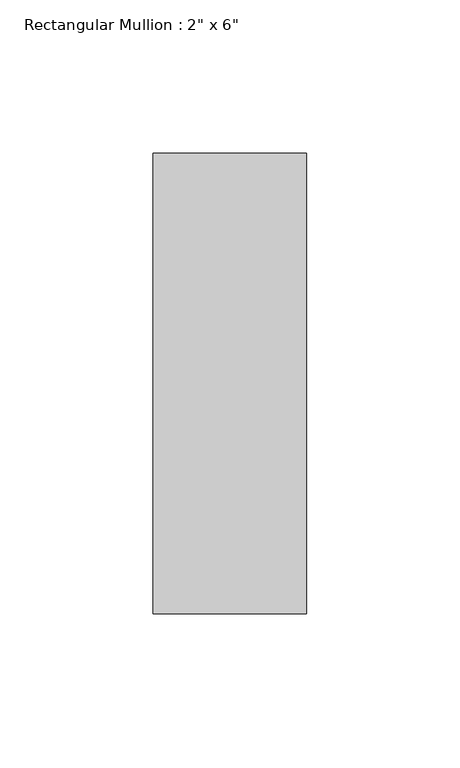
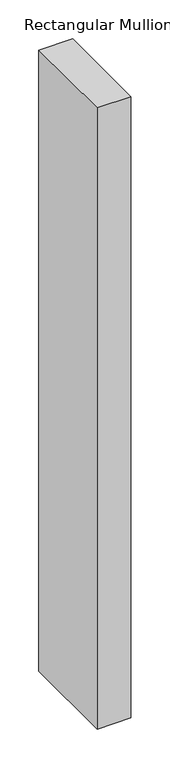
"""IFC4 building model written with IfcOpenShell, lengths in millimetres: member geometry."""

from ifc_helpers import new_model, si_unit, frame, origin, place, context, project, spatial, polyline, outline, extrude, source, transform, mapped, element, save


def member_ff7a03e8(model_context):
    return source(origin(), model_context, "Body", "SweptSolid", [
        extrude(outline(polyline([(0.0, 150.0), (0.0, 0.0), (-50.0, 0.0), (-50.0, 150.0), (0.0, 150.0)])), frame((0.0, 0.0, -974.9999998), z_axis=(0.0, 0.0, 1.0), x_axis=(1.0, 0.0, 0.0)), (0.0, 0.0, 1.0), 974.9999998),
    ])


if __name__ == "__main__":
    model = new_model("IFC4")
    model_context = context("Model", 3, world=origin())
    ifc_project = project(units=[si_unit("LENGTHUNIT", "METRE", prefix="MILLI")], contexts=[model_context])
    site = spatial("IfcSite", under=ifc_project)
    building = spatial("IfcBuilding", under=site)
    placement = place(None, origin())
    member_shape = member_ff7a03e8(model_context)
    element("IfcMember", 1, ObjectType="Rectangular Mullion : 2\" x 6\"", at=placement, inside=building, context=model_context, shape_type="MappedRepresentation", body=[
        mapped(member_shape, transform((0.0, 0.0, 0.0), x_axis=(1.0, 0.0, 0.0), y_axis=(0.0, 1.0, 0.0), z_axis=(0.0, 0.0, 1.0))),
    ])
    save(model, "model.ifc")
